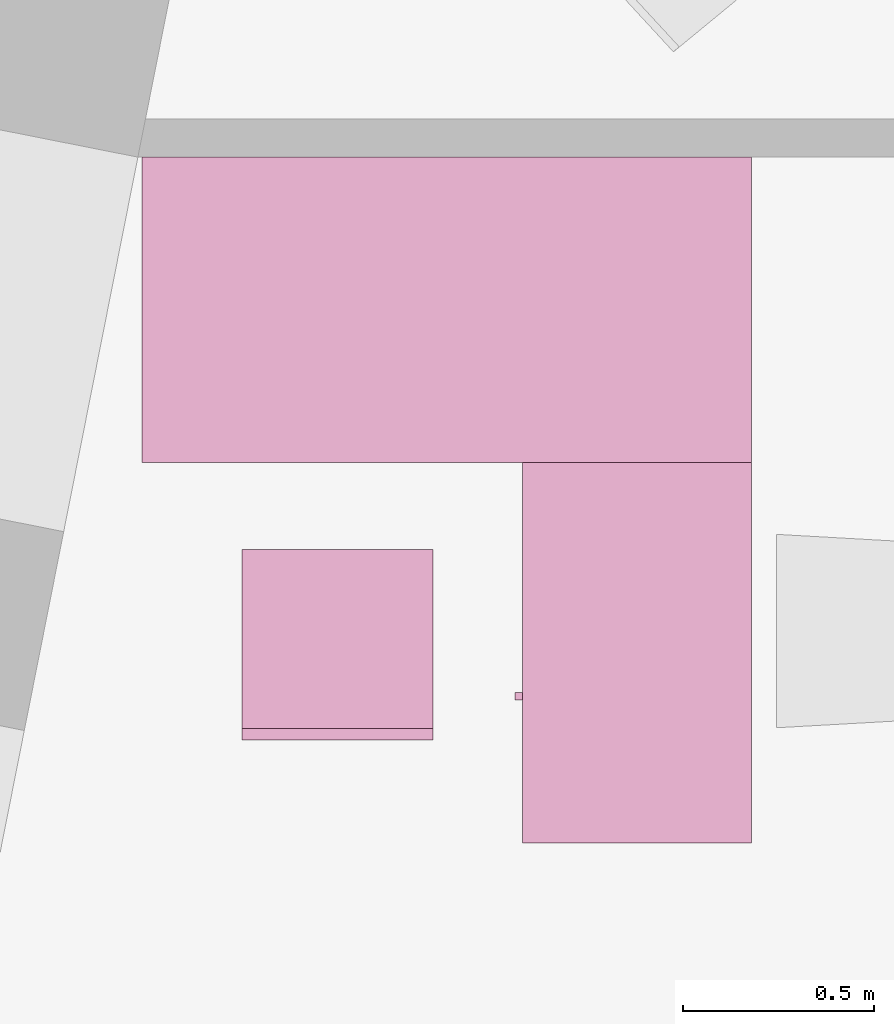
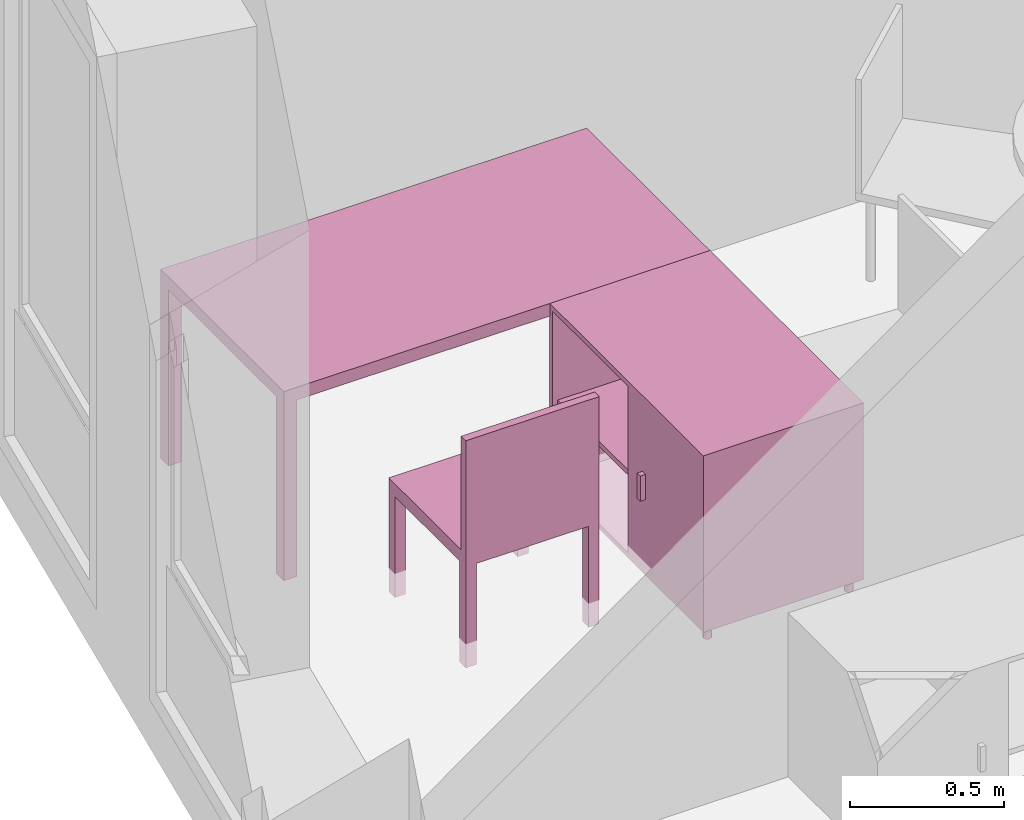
"""IFC4 building model written with IfcOpenShell, lengths in metres."""

from ifc_helpers import new_model, entity, si_unit, converted_unit, derived_unit, frame, origin, place, context, subcontext, project, spatial, faceted_brep, element, save


model = new_model("IFC4")

# Units and contexts
model_context = context("Model", 3, precision=1e-05, world=origin())
body_context = subcontext(model_context, "Body", "Model", "MODEL_VIEW")
ifc_project = project(units=[si_unit("LENGTHUNIT", "METRE"), si_unit("AREAUNIT", "SQUARE_METRE"), si_unit("VOLUMEUNIT", "CUBIC_METRE"), si_unit("MASSUNIT", "GRAM", prefix="KILO"), converted_unit("PLANEANGLEUNIT", "DEGREE", entity("IfcPlaneAngleMeasure", 0.0174532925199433), si_unit("PLANEANGLEUNIT", "RADIAN"), dimensions=[0, 0, 0, 0, 0, 0, 0]), derived_unit("THERMALTRANSMITTANCEUNIT", [(si_unit("POWERUNIT", "WATT"), 1), (si_unit("THERMODYNAMICTEMPERATUREUNIT", "KELVIN"), -1), (si_unit("LENGTHUNIT", "METRE"), -2)]), derived_unit("VOLUMETRICFLOWRATEUNIT", [(si_unit("LENGTHUNIT", "METRE"), 3), (converted_unit("TIMEUNIT", "hour", entity("IfcTimeMeasure", 3600.0), si_unit("TIMEUNIT", "SECOND"), dimensions=[0, 0, 1, 0, 0, 0, 0]), -1), (si_unit("LENGTHUNIT", "METRE"), -1)])], contexts=[model_context])

# Building, storeys
building_placement = place(None, origin())
building = spatial("IfcBuilding", under=ifc_project, at=building_placement, Name="HABITATGE PLURIFAMILIAR", CompositionType="ELEMENT")
storey_1_placement = place(building_placement, frame((0.0, 0.0, 12.27)))
storey_1 = spatial("IfcBuildingStorey", under=building, at=storey_1_placement, Name="PLANTA TERCERA", CompositionType="ELEMENT", Elevation=12.27)
storey_2_placement = place(storey_1_placement, frame((0.0, 0.0, 9.26)))
storey_2 = spatial("IfcBuildingStorey", under=storey_1, at=storey_2_placement, Name="NOU", CompositionType="PARTIAL")

# Furniture
furniture_1_placement = place(storey_2_placement, frame((400.155338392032, 21.6453659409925, -9.3599999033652)))
element("IfcFurniture", 1, at=furniture_1_placement, inside=storey_2, Name="Taula 160X80_P3", context=body_context, shape_type="Brep", body=[
    faceted_brep([(0.05, 0.750069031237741, 0.0), (0.05, 0.800069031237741, 0.0), (0.0, 0.800069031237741, 0.0), (0.0, 0.750069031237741, 0.0), (0.05, 0.800069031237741, 0.7), (0.05, 0.750069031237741, 0.7), (0.0, 0.750069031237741, 0.7), (0.0, 0.800069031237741, 0.7)], [[[0, 1, 2, 3]], [[4, 5, 6, 7]], [[1, 0, 5, 4]], [[2, 1, 4, 7]], [[3, 2, 7, 6]], [[0, 3, 6, 5]]], orient=[[False], [False], [False], [False], [False], [False]]),
    faceted_brep([(0.05, 0.0, 0.0), (0.05, 0.05, 0.0), (0.0, 0.05, 0.0), (0.0, 0.0, 0.0), (0.05, 0.05, 0.7), (0.05, 0.0, 0.7), (0.0, 0.0, 0.7), (0.0, 0.05, 0.7)], [[[0, 1, 2, 3]], [[4, 5, 6, 7]], [[1, 0, 5, 4]], [[2, 1, 4, 7]], [[3, 2, 7, 6]], [[0, 3, 6, 5]]], orient=[[False], [False], [False], [False], [False], [False]]),
    faceted_brep([(1.596945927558, 0.0, 0.7), (1.59694592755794, 0.800069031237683, 0.7), (0.0, 0.800069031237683, 0.7), (0.0, 0.0, 0.7), (1.59694592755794, 0.800069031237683, 0.75), (1.596945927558, 0.0, 0.75), (0.0, 0.0, 0.75), (0.0, 0.800069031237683, 0.75)], [[[0, 1, 2, 3]], [[4, 5, 6, 7]], [[1, 0, 5, 4]], [[2, 1, 4, 7]], [[3, 2, 7, 6]], [[0, 3, 6, 5]]], orient=[[False], [False], [False], [False], [False], [False]]),
    faceted_brep([(1.596945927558, 0.750069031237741, 0.0), (1.596945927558, 0.800069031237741, 0.0), (1.546945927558, 0.800069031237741, 0.0), (1.546945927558, 0.750069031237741, 0.0), (1.596945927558, 0.800069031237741, 0.7), (1.596945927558, 0.750069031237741, 0.7), (1.546945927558, 0.750069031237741, 0.7), (1.546945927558, 0.800069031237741, 0.7)], [[[0, 1, 2, 3]], [[4, 5, 6, 7]], [[1, 0, 5, 4]], [[2, 1, 4, 7]], [[3, 2, 7, 6]], [[0, 3, 6, 5]]], orient=[[False], [False], [False], [False], [False], [False]]),
    faceted_brep([(1.596945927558, 0.0, 0.0), (1.596945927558, 0.05, 0.0), (1.546945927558, 0.05, 0.0), (1.546945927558, 0.0, 0.0), (1.596945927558, 0.05, 0.7), (1.596945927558, 0.0, 0.7), (1.546945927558, 0.0, 0.7), (1.546945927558, 0.05, 0.7)], [[[0, 1, 2, 3]], [[4, 5, 6, 7]], [[1, 0, 5, 4]], [[2, 1, 4, 7]], [[3, 2, 7, 6]], [[0, 3, 6, 5]]], orient=[[False], [False], [False], [False], [False], [False]]),
])
furniture_2_placement = place(storey_2_placement, frame((401.13228431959, 20.6493920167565, -9.3599999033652)))
element("IfcFurniture", 2, at=furniture_2_placement, inside=storey_2, Name="Taula 100X60_P3", context=body_context, shape_type="Brep", body=[
    faceted_brep([(0.620000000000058, 1.00000000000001, 0.05), (0.620000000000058, 1.00000000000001, 0.07), (0.02, 1.00000000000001, 0.07), (0.02, 1.00000000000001, 0.05), (0.02, 0.0, 0.07), (0.02, 0.0, 0.05), (0.620000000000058, 0.0, 0.07), (0.620000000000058, 0.0, 0.05)], [[[0, 1, 2, 3]], [[3, 2, 4, 5]], [[5, 4, 6, 7]], [[7, 6, 1, 0]], [[0, 3, 5, 7]], [[1, 6, 4, 2]]], orient=[[False], [False], [False], [False], [False], [False]]),
    faceted_brep([(0.04, 1.00000000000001, 0.35), (0.04, 0.0, 0.35), (0.62, 0.0, 0.35), (0.62, 1.00000000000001, 0.35), (0.62, 1.00000000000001, 0.37), (0.62, 0.0, 0.37), (0.04, 0.0, 0.37), (0.04, 1.00000000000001, 0.37)], [[[0, 1, 2, 3]], [[4, 5, 6, 7]], [[3, 4, 7, 0]], [[2, 5, 4, 3]], [[1, 6, 5, 2]], [[0, 7, 6, 1]]], orient=[[False], [False], [False], [False], [False], [False]]),
    faceted_brep([(0.04, 0.490000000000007, 0.75), (0.02, 0.490000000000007, 0.75), (0.02, 0.490000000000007, 0.05), (0.04, 0.490000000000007, 0.05), (0.02, 0.0, 0.05), (0.04, 0.0, 0.05), (0.02, 0.0, 0.75), (0.04, 0.0, 0.75)], [[[0, 1, 2, 3]], [[3, 2, 4, 5]], [[5, 4, 6, 7]], [[7, 6, 1, 0]], [[0, 3, 5, 7]], [[1, 6, 4, 2]]], orient=[[False], [False], [False], [False], [False], [False]]),
    faceted_brep([(0.62, 0.980000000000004, 0.75), (0.62, 1.0, 0.75), (0.620000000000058, 1.0, 0.0499999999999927), (0.620000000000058, 0.980000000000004, 0.0499999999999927), (0.02, 1.00000000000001, 0.05), (0.02, 0.980000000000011, 0.05), (0.02, 1.00000000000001, 0.75), (0.02, 0.980000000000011, 0.75)], [[[0, 1, 2, 3]], [[3, 2, 4, 5]], [[5, 4, 6, 7]], [[7, 6, 1, 0]], [[0, 3, 5, 7]], [[1, 6, 4, 2]]], orient=[[False], [False], [False], [False], [False], [False]]),
    faceted_brep([(0.62, 0.470000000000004, 0.75), (0.62, 0.490000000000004, 0.75), (0.620000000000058, 0.490000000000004, 0.0499999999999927), (0.620000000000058, 0.470000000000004, 0.0499999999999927), (0.02, 0.490000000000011, 0.05), (0.02, 0.470000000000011, 0.05), (0.02, 0.490000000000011, 0.75), (0.02, 0.470000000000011, 0.75)], [[[0, 1, 2, 3]], [[3, 2, 4, 5]], [[5, 4, 6, 7]], [[7, 6, 1, 0]], [[0, 3, 5, 7]], [[1, 6, 4, 2]]], orient=[[False], [False], [False], [False], [False], [False]]),
    faceted_brep([(0.620000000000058, 0.47, 0.750000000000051), (0.620000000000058, 0.490000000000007, 0.750000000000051), (0.620000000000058, 0.490000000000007, 0.0499999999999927), (0.620000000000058, 0.47, 0.0499999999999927), (0.0400000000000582, 0.490000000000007, 0.0499999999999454), (0.0400000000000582, 0.47, 0.0499999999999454), (0.04, 0.490000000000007, 0.750000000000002), (0.04, 0.47, 0.750000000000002)], [[[0, 1, 2, 3]], [[3, 2, 4, 5]], [[5, 4, 6, 7]], [[7, 6, 1, 0]], [[0, 3, 5, 7]], [[1, 6, 4, 2]]], orient=[[False], [False], [False], [False], [False], [False]]),
    faceted_brep([(0.62, 0.0, 0.75), (0.62, 0.0200000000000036, 0.75), (0.620000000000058, 0.0200000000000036, 0.0499999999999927), (0.620000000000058, 0.0, 0.0499999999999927), (0.02, 0.0200000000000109, 0.05), (0.02, 0.0, 0.05), (0.02, 0.0200000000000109, 0.75), (0.02, 0.0, 0.75)], [[[0, 1, 2, 3]], [[3, 2, 4, 5]], [[5, 4, 6, 7]], [[7, 6, 1, 0]], [[0, 3, 5, 7]], [[1, 6, 4, 2]]], orient=[[False], [False], [False], [False], [False], [False]]),
    faceted_brep([(0.620000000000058, 1.00000000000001, 0.73), (0.620000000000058, 1.00000000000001, 0.75), (0.02, 1.00000000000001, 0.75), (0.02, 1.00000000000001, 0.73), (0.02, 0.0, 0.75), (0.02, 0.0, 0.73), (0.620000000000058, 0.0, 0.75), (0.620000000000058, 0.0, 0.73)], [[[0, 1, 2, 3]], [[3, 2, 4, 5]], [[5, 4, 6, 7]], [[7, 6, 1, 0]], [[0, 3, 5, 7]], [[1, 6, 4, 2]]], orient=[[False], [False], [False], [False], [False], [False]]),
    faceted_brep([(0.62, 0.980000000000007, 0.75), (0.6, 0.980000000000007, 0.75), (0.6, 0.980000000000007, 0.05), (0.62, 0.980000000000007, 0.05), (0.6, 0.0, 0.05), (0.62, 0.0, 0.05), (0.6, 0.0, 0.75), (0.62, 0.0, 0.75)], [[[0, 1, 2, 3]], [[3, 2, 4, 5]], [[5, 4, 6, 7]], [[7, 6, 1, 0]], [[0, 3, 5, 7]], [[1, 6, 4, 2]]], orient=[[False], [False], [False], [False], [False], [False]]),
    faceted_brep([(0.02, 0.37442032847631, 0.35), (0.02, 0.39442032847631, 0.35), (0.0, 0.39442032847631, 0.35), (0.0, 0.37442032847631, 0.35), (0.02, 0.39442032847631, 0.45), (0.02, 0.37442032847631, 0.45), (0.0, 0.37442032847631, 0.45), (0.0, 0.39442032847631, 0.45)], [[[0, 1, 2, 3]], [[4, 5, 6, 7]], [[1, 0, 5, 4]], [[2, 1, 4, 7]], [[3, 2, 7, 6]], [[0, 3, 6, 5]]], orient=[[False], [False], [False], [False], [False], [False]]),
    faceted_brep([(0.583821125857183, 0.950063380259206, 0.0), (0.586415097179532, 0.950290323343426, 0.0), (0.588930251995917, 0.950964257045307, 0.0), (0.591290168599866, 0.95206470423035, 0.0), (0.59342314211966, 0.953558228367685, 0.0), (0.595264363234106, 0.95539944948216, 0.0), (0.596757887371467, 0.957532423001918, 0.0), (0.597858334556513, 0.959892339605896, 0.0), (0.598532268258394, 0.962407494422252, 0.0), (0.598759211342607, 0.96500146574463, 0.0), (0.598532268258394, 0.967595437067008, 0.0), (0.597858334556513, 0.970110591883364, 0.0), (0.596757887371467, 0.972470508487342, 0.0), (0.595264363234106, 0.9746034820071, 0.0), (0.59342314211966, 0.976444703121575, 0.0), (0.591290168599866, 0.97793822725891, 0.0), (0.588930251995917, 0.979038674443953, 0.0), (0.586415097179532, 0.979712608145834, 0.0), (0.583821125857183, 0.979939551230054, 0.0), (0.581227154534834, 0.979712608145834, 0.0), (0.578711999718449, 0.979038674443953, 0.0), (0.5763520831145, 0.97793822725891, 0.0), (0.574219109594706, 0.976444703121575, 0.0), (0.57237788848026, 0.9746034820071, 0.0), (0.570884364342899, 0.972470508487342, 0.0), (0.569783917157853, 0.970110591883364, 0.0), (0.569109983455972, 0.967595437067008, 0.0), (0.568883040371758, 0.96500146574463, 0.0), (0.569109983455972, 0.962407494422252, 0.0), (0.569783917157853, 0.959892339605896, 0.0), (0.570884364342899, 0.957532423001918, 0.0), (0.57237788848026, 0.95539944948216, 0.0), (0.574219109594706, 0.953558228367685, 0.0), (0.5763520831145, 0.95206470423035, 0.0), (0.578711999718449, 0.950964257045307, 0.0), (0.581227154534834, 0.950290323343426, 0.0), (0.583821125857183, 0.950063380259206, 0.05), (0.581227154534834, 0.950290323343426, 0.05), (0.578711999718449, 0.950964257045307, 0.05), (0.5763520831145, 0.95206470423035, 0.05), (0.574219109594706, 0.953558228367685, 0.05), (0.57237788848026, 0.95539944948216, 0.05), (0.570884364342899, 0.957532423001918, 0.05), (0.569783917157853, 0.959892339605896, 0.05), (0.569109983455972, 0.962407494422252, 0.05), (0.568883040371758, 0.96500146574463, 0.05), (0.569109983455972, 0.967595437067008, 0.05), (0.569783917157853, 0.970110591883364, 0.05), (0.570884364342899, 0.972470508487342, 0.05), (0.57237788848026, 0.9746034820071, 0.05), (0.574219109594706, 0.976444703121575, 0.05), (0.5763520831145, 0.97793822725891, 0.05), (0.578711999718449, 0.979038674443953, 0.05), (0.581227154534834, 0.979712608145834, 0.05), (0.583821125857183, 0.979939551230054, 0.05), (0.586415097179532, 0.979712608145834, 0.05), (0.588930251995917, 0.979038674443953, 0.05), (0.591290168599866, 0.97793822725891, 0.05), (0.59342314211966, 0.976444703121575, 0.05), (0.595264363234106, 0.9746034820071, 0.05), (0.596757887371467, 0.972470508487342, 0.05), (0.597858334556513, 0.970110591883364, 0.05), (0.598532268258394, 0.967595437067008, 0.05), (0.598759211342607, 0.96500146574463, 0.05), (0.598532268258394, 0.962407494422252, 0.05), (0.597858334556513, 0.959892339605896, 0.05), (0.596757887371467, 0.957532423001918, 0.05), (0.595264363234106, 0.95539944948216, 0.05), (0.59342314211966, 0.953558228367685, 0.05), (0.591290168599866, 0.95206470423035, 0.05), (0.588930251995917, 0.950964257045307, 0.05), (0.586415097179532, 0.950290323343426, 0.05)], [[[0, 1, 2, 3, 4, 5, 6, 7, 8, 9, 10, 11, 12, 13, 14, 15, 16, 17, 18, 19, 20, 21, 22, 23, 24, 25, 26, 27, 28, 29, 30, 31, 32, 33, 34, 35]], [[36, 37, 38, 39, 40, 41, 42, 43, 44, 45, 46, 47, 48, 49, 50, 51, 52, 53, 54, 55, 56, 57, 58, 59, 60, 61, 62, 63, 64, 65, 66, 67, 68, 69, 70, 71]], [[35, 37, 36, 0]], [[34, 38, 37, 35]], [[33, 39, 38, 34]], [[32, 40, 39, 33]], [[31, 41, 40, 32]], [[30, 42, 41, 31]], [[29, 43, 42, 30]], [[28, 44, 43, 29]], [[27, 45, 44, 28]], [[26, 46, 45, 27]], [[25, 47, 46, 26]], [[24, 48, 47, 25]], [[23, 49, 48, 24]], [[22, 50, 49, 23]], [[21, 51, 50, 22]], [[20, 52, 51, 21]], [[19, 53, 52, 20]], [[18, 54, 53, 19]], [[17, 55, 54, 18]], [[16, 56, 55, 17]], [[15, 57, 56, 16]], [[14, 58, 57, 15]], [[13, 59, 58, 14]], [[12, 60, 59, 13]], [[11, 61, 60, 12]], [[10, 62, 61, 11]], [[9, 63, 62, 10]], [[8, 64, 63, 9]], [[7, 65, 64, 8]], [[6, 66, 65, 7]], [[5, 67, 66, 6]], [[4, 68, 67, 5]], [[3, 69, 68, 4]], [[2, 70, 69, 3]], [[1, 71, 70, 2]], [[0, 36, 71, 1]]], orient=[[False], [False], [False], [False], [False], [False], [False], [False], [False], [False], [False], [False], [False], [False], [False], [False], [False], [False], [False], [False], [False], [False], [False], [False], [False], [False], [False], [False], [False], [False], [False], [False], [False], [False], [False], [False], [False], [False]]),
    faceted_brep([(0.0538211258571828, 0.950063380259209, 0.0), (0.0564150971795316, 0.950290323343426, 0.0), (0.0589302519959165, 0.950964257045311, 0.0), (0.0612901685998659, 0.952064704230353, 0.0), (0.06342314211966, 0.953558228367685, 0.0), (0.065264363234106, 0.955399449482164, 0.0), (0.0667578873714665, 0.957532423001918, 0.0), (0.067858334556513, 0.959892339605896, 0.0), (0.0685322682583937, 0.962407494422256, 0.0), (0.0687592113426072, 0.96500146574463, 0.0), (0.0685322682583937, 0.967595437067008, 0.0), (0.067858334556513, 0.970110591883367, 0.0), (0.0667578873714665, 0.972470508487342, 0.0), (0.065264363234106, 0.9746034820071, 0.0), (0.06342314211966, 0.976444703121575, 0.0), (0.0612901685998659, 0.977938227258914, 0.0), (0.0589302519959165, 0.979038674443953, 0.0), (0.0564150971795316, 0.979712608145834, 0.0), (0.0538211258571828, 0.979939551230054, 0.0), (0.051227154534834, 0.979712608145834, 0.0), (0.0487119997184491, 0.979038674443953, 0.0), (0.0463520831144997, 0.977938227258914, 0.0), (0.0442191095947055, 0.976444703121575, 0.0), (0.0423778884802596, 0.9746034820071, 0.0), (0.0408843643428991, 0.972470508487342, 0.0), (0.0397839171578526, 0.970110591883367, 0.0), (0.0391099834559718, 0.967595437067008, 0.0), (0.0388830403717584, 0.96500146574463, 0.0), (0.0391099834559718, 0.962407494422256, 0.0), (0.0397839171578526, 0.959892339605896, 0.0), (0.0408843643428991, 0.957532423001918, 0.0), (0.0423778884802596, 0.955399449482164, 0.0), (0.0442191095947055, 0.953558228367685, 0.0), (0.0463520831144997, 0.952064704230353, 0.0), (0.0487119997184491, 0.950964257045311, 0.0), (0.051227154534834, 0.950290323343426, 0.0), (0.0538211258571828, 0.950063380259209, 0.05), (0.051227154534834, 0.950290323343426, 0.05), (0.0487119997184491, 0.950964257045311, 0.05), (0.0463520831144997, 0.952064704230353, 0.05), (0.0442191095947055, 0.953558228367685, 0.05), (0.0423778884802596, 0.955399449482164, 0.05), (0.0408843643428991, 0.957532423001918, 0.05), (0.0397839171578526, 0.959892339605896, 0.05), (0.0391099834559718, 0.962407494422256, 0.05), (0.0388830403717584, 0.96500146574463, 0.05), (0.0391099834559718, 0.967595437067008, 0.05), (0.0397839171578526, 0.970110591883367, 0.05), (0.0408843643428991, 0.972470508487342, 0.05), (0.0423778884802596, 0.9746034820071, 0.05), (0.0442191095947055, 0.976444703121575, 0.05), (0.0463520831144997, 0.977938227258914, 0.05), (0.0487119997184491, 0.979038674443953, 0.05), (0.051227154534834, 0.979712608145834, 0.05), (0.0538211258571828, 0.979939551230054, 0.05), (0.0564150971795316, 0.979712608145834, 0.05), (0.0589302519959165, 0.979038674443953, 0.05), (0.0612901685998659, 0.977938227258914, 0.05), (0.06342314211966, 0.976444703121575, 0.05), (0.065264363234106, 0.9746034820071, 0.05), (0.0667578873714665, 0.972470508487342, 0.05), (0.067858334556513, 0.970110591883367, 0.05), (0.0685322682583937, 0.967595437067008, 0.05), (0.0687592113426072, 0.96500146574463, 0.05), (0.0685322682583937, 0.962407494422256, 0.05), (0.067858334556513, 0.959892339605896, 0.05), (0.0667578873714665, 0.957532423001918, 0.05), (0.065264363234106, 0.955399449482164, 0.05), (0.06342314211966, 0.953558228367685, 0.05), (0.0612901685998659, 0.952064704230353, 0.05), (0.0589302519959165, 0.950964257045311, 0.05), (0.0564150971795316, 0.950290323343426, 0.05)], [[[0, 1, 2, 3, 4, 5, 6, 7, 8, 9, 10, 11, 12, 13, 14, 15, 16, 17, 18, 19, 20, 21, 22, 23, 24, 25, 26, 27, 28, 29, 30, 31, 32, 33, 34, 35]], [[36, 37, 38, 39, 40, 41, 42, 43, 44, 45, 46, 47, 48, 49, 50, 51, 52, 53, 54, 55, 56, 57, 58, 59, 60, 61, 62, 63, 64, 65, 66, 67, 68, 69, 70, 71]], [[35, 37, 36, 0]], [[34, 38, 37, 35]], [[33, 39, 38, 34]], [[32, 40, 39, 33]], [[31, 41, 40, 32]], [[30, 42, 41, 31]], [[29, 43, 42, 30]], [[28, 44, 43, 29]], [[27, 45, 44, 28]], [[26, 46, 45, 27]], [[25, 47, 46, 26]], [[24, 48, 47, 25]], [[23, 49, 48, 24]], [[22, 50, 49, 23]], [[21, 51, 50, 22]], [[20, 52, 51, 21]], [[19, 53, 52, 20]], [[18, 54, 53, 19]], [[17, 55, 54, 18]], [[16, 56, 55, 17]], [[15, 57, 56, 16]], [[14, 58, 57, 15]], [[13, 59, 58, 14]], [[12, 60, 59, 13]], [[11, 61, 60, 12]], [[10, 62, 61, 11]], [[9, 63, 62, 10]], [[8, 64, 63, 9]], [[7, 65, 64, 8]], [[6, 66, 65, 7]], [[5, 67, 66, 6]], [[4, 68, 67, 5]], [[3, 69, 68, 4]], [[2, 70, 69, 3]], [[1, 71, 70, 2]], [[0, 36, 71, 1]]], orient=[[False], [False], [False], [False], [False], [False], [False], [False], [False], [False], [False], [False], [False], [False], [False], [False], [False], [False], [False], [False], [False], [False], [False], [False], [False], [False], [False], [False], [False], [False], [False], [False], [False], [False], [False], [False], [False], [False]]),
    faceted_brep([(0.0550000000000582, 0.0200170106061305, 0.0), (0.057593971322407, 0.0202439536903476, 0.0), (0.0601091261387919, 0.0209178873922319, 0.0), (0.0624690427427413, 0.0220183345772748, 0.0), (0.0646020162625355, 0.0235118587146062, 0.0), (0.0664432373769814, 0.0253530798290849, 0.0), (0.0679367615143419, 0.0274860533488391, 0.0), (0.0690372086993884, 0.0298459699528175, 0.0), (0.0697111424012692, 0.032361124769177, 0.0), (0.0699380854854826, 0.0349550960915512, 0.0), (0.0697111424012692, 0.0375490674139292, 0.0), (0.0690372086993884, 0.0400642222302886, 0.0), (0.0679367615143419, 0.0424241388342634, 0.0), (0.0664432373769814, 0.0445571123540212, 0.0), (0.0646020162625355, 0.0463983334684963, 0.0), (0.0624690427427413, 0.047891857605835, 0.0), (0.0601091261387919, 0.0489923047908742, 0.0), (0.057593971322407, 0.0496662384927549, 0.0), (0.0550000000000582, 0.0498931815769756, 0.0), (0.0524060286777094, 0.0496662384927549, 0.0), (0.0498908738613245, 0.0489923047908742, 0.0), (0.0475309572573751, 0.047891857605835, 0.0), (0.0453979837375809, 0.0463983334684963, 0.0), (0.043556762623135, 0.0445571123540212, 0.0), (0.0420632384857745, 0.0424241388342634, 0.0), (0.040962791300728, 0.0400642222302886, 0.0), (0.0402888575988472, 0.0375490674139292, 0.0), (0.0400619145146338, 0.0349550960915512, 0.0), (0.0402888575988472, 0.032361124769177, 0.0), (0.040962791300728, 0.0298459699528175, 0.0), (0.0420632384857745, 0.0274860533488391, 0.0), (0.043556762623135, 0.0253530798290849, 0.0), (0.0453979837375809, 0.0235118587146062, 0.0), (0.0475309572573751, 0.0220183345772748, 0.0), (0.0498908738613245, 0.0209178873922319, 0.0), (0.0524060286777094, 0.0202439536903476, 0.0), (0.0550000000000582, 0.0200170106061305, 0.05), (0.0524060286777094, 0.0202439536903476, 0.05), (0.0498908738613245, 0.0209178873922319, 0.05), (0.0475309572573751, 0.0220183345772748, 0.05), (0.0453979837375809, 0.0235118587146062, 0.05), (0.043556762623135, 0.0253530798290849, 0.05), (0.0420632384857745, 0.0274860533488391, 0.05), (0.040962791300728, 0.0298459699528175, 0.05), (0.0402888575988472, 0.032361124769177, 0.05), (0.0400619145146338, 0.0349550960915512, 0.05), (0.0402888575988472, 0.0375490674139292, 0.05), (0.040962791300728, 0.0400642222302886, 0.05), (0.0420632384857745, 0.0424241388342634, 0.05), (0.043556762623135, 0.0445571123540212, 0.05), (0.0453979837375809, 0.0463983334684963, 0.05), (0.0475309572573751, 0.047891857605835, 0.05), (0.0498908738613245, 0.0489923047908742, 0.05), (0.0524060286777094, 0.0496662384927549, 0.05), (0.0550000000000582, 0.0498931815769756, 0.05), (0.057593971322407, 0.0496662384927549, 0.05), (0.0601091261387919, 0.0489923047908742, 0.05), (0.0624690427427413, 0.047891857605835, 0.05), (0.0646020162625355, 0.0463983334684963, 0.05), (0.0664432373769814, 0.0445571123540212, 0.05), (0.0679367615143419, 0.0424241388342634, 0.05), (0.0690372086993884, 0.0400642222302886, 0.05), (0.0697111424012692, 0.0375490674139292, 0.05), (0.0699380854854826, 0.0349550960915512, 0.05), (0.0697111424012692, 0.032361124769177, 0.05), (0.0690372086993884, 0.0298459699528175, 0.05), (0.0679367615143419, 0.0274860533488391, 0.05), (0.0664432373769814, 0.0253530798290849, 0.05), (0.0646020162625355, 0.0235118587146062, 0.05), (0.0624690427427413, 0.0220183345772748, 0.05), (0.0601091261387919, 0.0209178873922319, 0.05), (0.057593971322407, 0.0202439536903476, 0.05)], [[[0, 1, 2, 3, 4, 5, 6, 7, 8, 9, 10, 11, 12, 13, 14, 15, 16, 17, 18, 19, 20, 21, 22, 23, 24, 25, 26, 27, 28, 29, 30, 31, 32, 33, 34, 35]], [[36, 37, 38, 39, 40, 41, 42, 43, 44, 45, 46, 47, 48, 49, 50, 51, 52, 53, 54, 55, 56, 57, 58, 59, 60, 61, 62, 63, 64, 65, 66, 67, 68, 69, 70, 71]], [[35, 37, 36, 0]], [[34, 38, 37, 35]], [[33, 39, 38, 34]], [[32, 40, 39, 33]], [[31, 41, 40, 32]], [[30, 42, 41, 31]], [[29, 43, 42, 30]], [[28, 44, 43, 29]], [[27, 45, 44, 28]], [[26, 46, 45, 27]], [[25, 47, 46, 26]], [[24, 48, 47, 25]], [[23, 49, 48, 24]], [[22, 50, 49, 23]], [[21, 51, 50, 22]], [[20, 52, 51, 21]], [[19, 53, 52, 20]], [[18, 54, 53, 19]], [[17, 55, 54, 18]], [[16, 56, 55, 17]], [[15, 57, 56, 16]], [[14, 58, 57, 15]], [[13, 59, 58, 14]], [[12, 60, 59, 13]], [[11, 61, 60, 12]], [[10, 62, 61, 11]], [[9, 63, 62, 10]], [[8, 64, 63, 9]], [[7, 65, 64, 8]], [[6, 66, 65, 7]], [[5, 67, 66, 6]], [[4, 68, 67, 5]], [[3, 69, 68, 4]], [[2, 70, 69, 3]], [[1, 71, 70, 2]], [[0, 36, 71, 1]]], orient=[[False], [False], [False], [False], [False], [False], [False], [False], [False], [False], [False], [False], [False], [False], [False], [False], [False], [False], [False], [False], [False], [False], [False], [False], [False], [False], [False], [False], [False], [False], [False], [False], [False], [False], [False], [False], [False], [False]]),
    faceted_brep([(0.585033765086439, 0.0203520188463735, 0.0), (0.587627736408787, 0.0205789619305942, 0.0), (0.590142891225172, 0.021252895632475, 0.0), (0.592502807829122, 0.0223533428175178, 0.0), (0.594635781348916, 0.0238468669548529, 0.0), (0.596477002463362, 0.0256880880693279, 0.0), (0.597970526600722, 0.0278210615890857, 0.0), (0.599070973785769, 0.0301809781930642, 0.0), (0.59974490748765, 0.03269613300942, 0.0), (0.599971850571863, 0.0352901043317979, 0.0), (0.59974490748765, 0.0378840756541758, 0.0), (0.599070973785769, 0.0403992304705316, 0.0), (0.597970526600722, 0.0427591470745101, 0.0), (0.596477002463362, 0.0448921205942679, 0.0), (0.594635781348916, 0.046733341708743, 0.0), (0.592502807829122, 0.048226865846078, 0.0), (0.590142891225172, 0.0493273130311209, 0.0), (0.587627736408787, 0.0500012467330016, 0.0), (0.585033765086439, 0.0502281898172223, 0.0), (0.58243979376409, 0.0500012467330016, 0.0), (0.579924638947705, 0.0493273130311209, 0.0), (0.577564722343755, 0.048226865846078, 0.0), (0.575431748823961, 0.046733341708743, 0.0), (0.573590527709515, 0.0448921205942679, 0.0), (0.572097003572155, 0.0427591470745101, 0.0), (0.570996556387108, 0.0403992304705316, 0.0), (0.570322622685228, 0.0378840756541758, 0.0), (0.570095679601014, 0.0352901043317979, 0.0), (0.570322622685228, 0.03269613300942, 0.0), (0.570996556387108, 0.0301809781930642, 0.0), (0.572097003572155, 0.0278210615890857, 0.0), (0.573590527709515, 0.0256880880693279, 0.0), (0.575431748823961, 0.0238468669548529, 0.0), (0.577564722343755, 0.0223533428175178, 0.0), (0.579924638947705, 0.021252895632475, 0.0), (0.58243979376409, 0.0205789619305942, 0.0), (0.585033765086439, 0.0203520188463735, 0.05), (0.58243979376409, 0.0205789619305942, 0.05), (0.579924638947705, 0.021252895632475, 0.05), (0.577564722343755, 0.0223533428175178, 0.05), (0.575431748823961, 0.0238468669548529, 0.05), (0.573590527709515, 0.0256880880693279, 0.05), (0.572097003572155, 0.0278210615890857, 0.05), (0.570996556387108, 0.0301809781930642, 0.05), (0.570322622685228, 0.03269613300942, 0.05), (0.570095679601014, 0.0352901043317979, 0.05), (0.570322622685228, 0.0378840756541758, 0.05), (0.570996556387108, 0.0403992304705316, 0.05), (0.572097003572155, 0.0427591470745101, 0.05), (0.573590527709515, 0.0448921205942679, 0.05), (0.575431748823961, 0.046733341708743, 0.05), (0.577564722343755, 0.048226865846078, 0.05), (0.579924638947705, 0.0493273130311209, 0.05), (0.58243979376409, 0.0500012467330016, 0.05), (0.585033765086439, 0.0502281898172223, 0.05), (0.587627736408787, 0.0500012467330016, 0.05), (0.590142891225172, 0.0493273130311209, 0.05), (0.592502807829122, 0.048226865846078, 0.05), (0.594635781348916, 0.046733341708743, 0.05), (0.596477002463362, 0.0448921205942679, 0.05), (0.597970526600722, 0.0427591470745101, 0.05), (0.599070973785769, 0.0403992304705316, 0.05), (0.59974490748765, 0.0378840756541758, 0.05), (0.599971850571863, 0.0352901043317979, 0.05), (0.59974490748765, 0.03269613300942, 0.05), (0.599070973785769, 0.0301809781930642, 0.05), (0.597970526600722, 0.0278210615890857, 0.05), (0.596477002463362, 0.0256880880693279, 0.05), (0.594635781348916, 0.0238468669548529, 0.05), (0.592502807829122, 0.0223533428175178, 0.05), (0.590142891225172, 0.021252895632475, 0.05), (0.587627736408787, 0.0205789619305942, 0.05)], [[[0, 1, 2, 3, 4, 5, 6, 7, 8, 9, 10, 11, 12, 13, 14, 15, 16, 17, 18, 19, 20, 21, 22, 23, 24, 25, 26, 27, 28, 29, 30, 31, 32, 33, 34, 35]], [[36, 37, 38, 39, 40, 41, 42, 43, 44, 45, 46, 47, 48, 49, 50, 51, 52, 53, 54, 55, 56, 57, 58, 59, 60, 61, 62, 63, 64, 65, 66, 67, 68, 69, 70, 71]], [[35, 37, 36, 0]], [[34, 38, 37, 35]], [[33, 39, 38, 34]], [[32, 40, 39, 33]], [[31, 41, 40, 32]], [[30, 42, 41, 31]], [[29, 43, 42, 30]], [[28, 44, 43, 29]], [[27, 45, 44, 28]], [[26, 46, 45, 27]], [[25, 47, 46, 26]], [[24, 48, 47, 25]], [[23, 49, 48, 24]], [[22, 50, 49, 23]], [[21, 51, 50, 22]], [[20, 52, 51, 21]], [[19, 53, 52, 20]], [[18, 54, 53, 19]], [[17, 55, 54, 18]], [[16, 56, 55, 17]], [[15, 57, 56, 16]], [[14, 58, 57, 15]], [[13, 59, 58, 14]], [[12, 60, 59, 13]], [[11, 61, 60, 12]], [[10, 62, 61, 11]], [[9, 63, 62, 10]], [[8, 64, 63, 9]], [[7, 65, 64, 8]], [[6, 66, 65, 7]], [[5, 67, 66, 6]], [[4, 68, 67, 5]], [[3, 69, 68, 4]], [[2, 70, 69, 3]], [[1, 71, 70, 2]], [[0, 36, 71, 1]]], orient=[[False], [False], [False], [False], [False], [False], [False], [False], [False], [False], [False], [False], [False], [False], [False], [False], [False], [False], [False], [False], [False], [False], [False], [False], [False], [False], [False], [False], [False], [False], [False], [False], [False], [False], [False], [False], [False], [False]]),
])
furniture_3_placement = place(storey_2_placement, frame((400.417411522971, 20.9183021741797, -9.35590342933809)))
element("IfcFurniture", 3, at=furniture_3_placement, inside=storey_2, Name="Cadira d'Oficina_P3", context=body_context, shape_type="Brep", body=[
    faceted_brep([(0.0, 0.500000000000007, 0.4), (0.0, 0.0, 0.4), (0.5, 0.0, 0.4), (0.5, 0.500000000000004, 0.4), (0.0, 0.0, 0.45), (0.0, 0.500000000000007, 0.45), (0.5, 0.500000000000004, 0.45), (0.5, 0.0, 0.45)], [[[0, 1, 2, 3]], [[4, 5, 6, 7]], [[1, 0, 5, 4]], [[2, 1, 4, 7]], [[3, 2, 7, 6]], [[0, 3, 6, 5]]], orient=[[False], [False], [False], [False], [False], [False]]),
    faceted_brep([(0.5, 0.04, 0.0), (0.46, 0.04, 0.0), (0.46, 0.0, 0.0), (0.5, 0.0, 0.0), (0.46, 0.04, 0.4), (0.5, 0.04, 0.4), (0.5, 0.0, 0.4), (0.46, 0.0, 0.4)], [[[0, 1, 2, 3]], [[4, 5, 6, 7]], [[1, 0, 5, 4]], [[2, 1, 4, 7]], [[3, 2, 7, 6]], [[0, 3, 6, 5]]], orient=[[False], [False], [False], [False], [False], [False]]),
    faceted_brep([(0.5, 0.500000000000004, 0.0), (0.46, 0.500000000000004, 0.0), (0.46, 0.460000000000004, 0.0), (0.5, 0.460000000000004, 0.0), (0.46, 0.500000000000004, 0.4), (0.5, 0.500000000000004, 0.4), (0.5, 0.460000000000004, 0.4), (0.46, 0.460000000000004, 0.4)], [[[0, 1, 2, 3]], [[4, 5, 6, 7]], [[1, 0, 5, 4]], [[2, 1, 4, 7]], [[3, 2, 7, 6]], [[0, 3, 6, 5]]], orient=[[False], [False], [False], [False], [False], [False]]),
    faceted_brep([(0.04, 0.0400000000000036, 0.0), (0.0, 0.0400000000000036, 0.0), (0.0, 0.0, 0.0), (0.04, 0.0, 0.0), (0.0, 0.0400000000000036, 0.4), (0.04, 0.0400000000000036, 0.4), (0.04, 0.0, 0.4), (0.0, 0.0, 0.4)], [[[0, 1, 2, 3]], [[4, 5, 6, 7]], [[1, 0, 5, 4]], [[2, 1, 4, 7]], [[3, 2, 7, 6]], [[0, 3, 6, 5]]], orient=[[False], [False], [False], [False], [False], [False]]),
    faceted_brep([(0.04, 0.500000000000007, 0.0), (0.0, 0.500000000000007, 0.0), (0.0, 0.460000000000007, 0.0), (0.04, 0.460000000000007, 0.0), (0.0, 0.500000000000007, 0.4), (0.04, 0.500000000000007, 0.4), (0.04, 0.460000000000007, 0.4), (0.0, 0.460000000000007, 0.4)], [[[0, 1, 2, 3]], [[4, 5, 6, 7]], [[1, 0, 5, 4]], [[2, 1, 4, 7]], [[3, 2, 7, 6]], [[0, 3, 6, 5]]], orient=[[False], [False], [False], [False], [False], [False]]),
    faceted_brep([(0.5, 0.03, 0.45), (0.0, 0.0300000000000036, 0.45), (0.0, 0.0, 0.45), (0.5, 0.0, 0.45), (0.0, 0.0300000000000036, 0.9), (0.5, 0.03, 0.9), (0.5, 0.0, 0.9), (0.0, 0.0, 0.9)], [[[0, 1, 2, 3]], [[4, 5, 6, 7]], [[1, 0, 5, 4]], [[2, 1, 4, 7]], [[3, 2, 7, 6]], [[0, 3, 6, 5]]], orient=[[False], [False], [False], [False], [False], [False]]),
])

save(model, "model.ifc")
